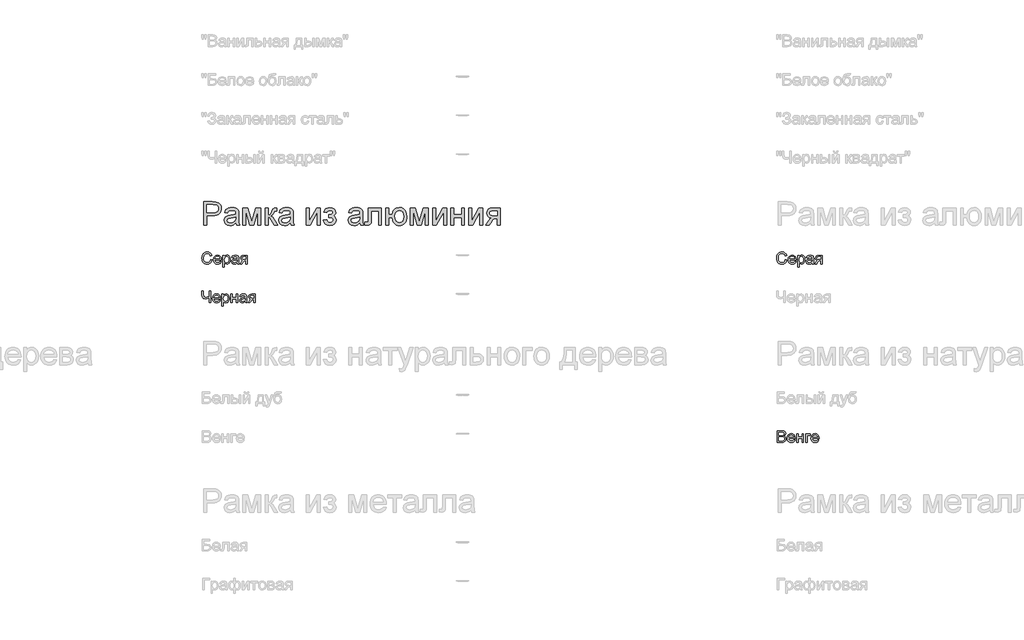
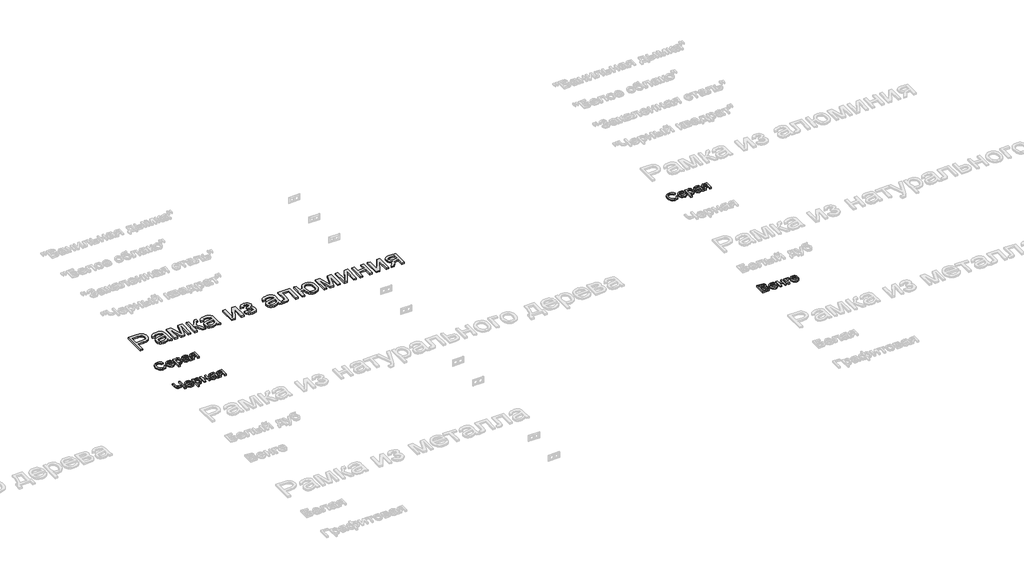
# One storey, part 115 of 168: 5 proxies.
"""IFC4 building model written with IfcOpenShell, lengths in millimetres."""

from ifc_helpers import new_model, si_unit, origin, origin_with_axes, place, context, project, spatial, polyline, outline, extrude, element, save

model = new_model("IFC4")

# Units and contexts
model_context = context("Model", 3, world=origin())
ifc_project = project(units=[si_unit("LENGTHUNIT", "METRE", prefix="MILLI")], contexts=[model_context])

# Site, building, storey
site = spatial("IfcSite", under=ifc_project)
building = spatial("IfcBuilding", under=site)
storey = spatial("IfcBuildingStorey", under=building, Name="Этаж 01", Elevation=0.0)

# Proxies
placement = place(None, origin())
element("IfcBuildingElementProxy", 1, Name="300 мм Arial 2", ObjectType="300 мм Arial 2", at=placement, inside=storey, context=model_context, shape_type="SweptSolid", body=[
    extrude(outline(polyline([(40299.0945017, -8848.4056816), (40299.0945017, -8547.0367511), (40410.7834754, -8547.0367511), (40455.8122316, -8549.9062307), (40475.8893915, -8555.2681108), (40492.4164901, -8563.9961111), (40505.7246213, -8576.4857048), (40516.1448788, -8593.1323651), (40522.8771193, -8612.7680666), (40525.1211995, -8634.224784), (40523.6059855, -8652.7246498), (40519.0603436, -8669.7437906), (40511.4842738, -8685.2822064), (40500.877776, -8699.3398971), (40486.3165468, -8710.9925593), (40466.8762826, -8719.3158895), (40442.5569835, -8724.3098875), (40413.3586494, -8725.9745536), (40336.765618, -8725.9745536), (40336.765618, -8848.4056816), (40299.0945017, -8848.4056816)]), holes=[polyline([(40336.765618, -8688.3034373), (40415.5659413, -8688.3034373), (40448.9696265, -8684.8453465), (40471.0425462, -8674.4710742), (40483.3481989, -8657.824414), (40487.4500832, -8635.5491592), (40485.0312591, -8618.6265874), (40477.7747867, -8604.352766), (40466.581977, -8593.6106117), (40452.3541408, -8587.2830414), (40414.6830245, -8584.7078674), (40336.765618, -8584.7078674), (40336.765618, -8688.3034373)])]), origin_with_axes(), (0.0, 0.0, 1.0), 20.0),
    extrude(outline(polyline([(40713.476781, -8820.1523443), (40695.4781544, -8835.584994), (40676.9460989, -8845.6833548), (40657.4575502, -8851.256767), (40636.589444, -8853.1145711), (40605.1079423, -8848.6448049), (40581.8853914, -8835.2355061), (40567.5655847, -8814.8732377), (40562.7923158, -8789.5445623), (40564.5949376, -8773.9279716), (40570.0028029, -8759.7461207), (40578.3445271, -8747.6060149), (40588.9487257, -8738.1146594), (40615.3258647, -8725.7538244), (40647.9202095, -8720.0884417), (40686.4374544, -8714.1287533), (40713.2560518, -8707.1389954), (40713.476781, -8698.7512859), (40710.883213, -8681.9390788), (40703.1025088, -8670.9394071), (40685.7016904, -8662.7724268), (40661.4582669, -8660.0501), (40639.0174652, -8661.8619189), (40623.3456922, -8667.2973753), (40612.6587202, -8677.3497509), (40605.1723216, -8693.0123268), (40567.5012053, -8688.3034373), (40574.0403078, -8667.7020455), (40583.7983777, -8651.5152378), (40597.685923, -8639.1360086), (40616.6134517, -8629.9573528), (40639.7624262, -8624.273576), (40666.3143092, -8622.3789837), (40691.7809404, -8624.0528468), (40711.9684648, -8629.074436), (40727.1895824, -8636.625214), (40737.7569927, -8645.8866432), (40744.7651447, -8657.3369703), (40749.3084874, -8671.4544419), (40751.1478973, -8704.4166687), (40751.1478973, -8751.2848348), (40753.0608837, -8816.7310418), (40760.5656764, -8848.4056816), (40722.8945601, -8848.4056816), (40713.476781, -8820.1523443)]), holes=[polyline([(40713.476781, -8744.8101117), (40652.7026754, -8756.3616064), (40620.2922716, -8762.4684475), (40605.61378, -8772.4012614), (40600.4634321, -8786.895812), (40603.2685323, -8798.0978187), (40611.683833, -8807.2764745), (40625.525393, -8813.4017097), (40644.6092715, -8815.4434548), (40664.8427813, -8813.1901776), (40682.7218462, -8806.4303459), (40697.2163968, -8796.4699409), (40707.2963635, -8784.6149436), (40711.7661297, -8772.4012614), (40713.2560518, -8755.4786896), (40713.476781, -8744.8101117)])]), origin_with_axes(), (0.0, 0.0, 1.0), 20.0),
    extrude(outline(polyline([(40802.9456823, -8627.0878733), (40867.7664898, -8627.0878733), (40917.7248647, -8804.2598421), (40971.5827888, -8627.0878733), (41033.6812696, -8627.0878733), (41033.6812696, -8848.4056816), (40996.0101533, -8848.4056816), (40996.0101533, -8670.2036431), (40941.8579236, -8848.4056816), (40892.4145835, -8848.4056816), (40840.6167986, -8661.6687808), (40840.6167986, -8848.4056816), (40802.9456823, -8848.4056816), (40802.9456823, -8627.0878733)])), origin_with_axes(), (0.0, 0.0, 1.0), 20.0),
    extrude(outline(polyline([(41090.1879441, -8627.0878733), (41127.8590604, -8627.0878733), (41127.8590604, -8721.265664), (41143.1813455, -8719.5734069), (41153.0957653, -8714.4966353), (41161.8697508, -8701.2528835), (41173.7707334, -8675.0596854), (41190.9508226, -8641.0306009), (41206.1075608, -8629.9573528), (41233.6619222, -8627.0878733), (41240.8724093, -8627.0878733), (41240.8724093, -8664.9797188), (41230.7188662, -8664.7589896), (41212.3247665, -8668.7321151), (41199.3753203, -8693.5273616), (41184.1817939, -8720.345959), (41162.8814263, -8733.4793463), (41174.8191971, -8738.7814455), (41186.6466032, -8748.1394438), (41209.9703217, -8779.0231373), (41250.2901884, -8848.4056816), (41207.4687241, -8848.4056816), (41167.9581979, -8780.4946653), (41148.0925701, -8751.7630814), (41138.8035497, -8746.5483542), (41127.8590604, -8744.8101117), (41127.8590604, -8848.4056816), (41090.1879441, -8848.4056816), (41090.1879441, -8627.0878733)])), origin_with_axes(), (0.0, 0.0, 1.0), 20.0),
    extrude(outline(polyline([(41415.1013222, -8820.1523443), (41397.1026956, -8835.584994), (41378.5706401, -8845.6833548), (41359.0820914, -8851.256767), (41338.2139852, -8853.1145711), (41306.7324835, -8848.6448049), (41283.5099326, -8835.2355061), (41269.1901259, -8814.8732377), (41264.416857, -8789.5445623), (41266.2194788, -8773.9279716), (41271.6273441, -8759.7461207), (41279.9690683, -8747.6060149), (41290.5732669, -8738.1146594), (41316.9504059, -8725.7538244), (41349.5447507, -8720.0884417), (41388.0619956, -8714.1287533), (41414.880593, -8707.1389954), (41415.1013222, -8698.7512859), (41412.5077542, -8681.9390788), (41404.72705, -8670.9394071), (41387.3262316, -8662.7724268), (41363.0828081, -8660.0501), (41340.6420064, -8661.8619189), (41324.9702334, -8667.2973753), (41314.2832614, -8677.3497509), (41306.7968628, -8693.0123268), (41269.1257465, -8688.3034373), (41275.664849, -8667.7020455), (41285.4229189, -8651.5152378), (41299.3104642, -8639.1360086), (41318.2379929, -8629.9573528), (41341.3869674, -8624.273576), (41367.9388504, -8622.3789837), (41393.4054816, -8624.0528468), (41413.593006, -8629.074436), (41428.8141236, -8636.625214), (41439.3815339, -8645.8866432), (41446.3896859, -8657.3369703), (41450.9330286, -8671.4544419), (41452.7724385, -8704.4166687), (41452.7724385, -8751.2848348), (41454.6854249, -8816.7310418), (41462.1902176, -8848.4056816), (41424.5191013, -8848.4056816), (41415.1013222, -8820.1523443)]), holes=[polyline([(41415.1013222, -8744.8101117), (41354.3272166, -8756.3616064), (41321.9168128, -8762.4684475), (41307.2383212, -8772.4012614), (41302.0879733, -8786.895812), (41304.8930735, -8798.0978187), (41313.3083742, -8807.2764745), (41327.1499342, -8813.4017097), (41346.2338127, -8815.4434548), (41366.4673225, -8813.1901776), (41384.3463874, -8806.4303459), (41398.840938, -8796.4699409), (41408.9209047, -8784.6149436), (41413.3906709, -8772.4012614), (41414.880593, -8755.4786896), (41415.1013222, -8744.8101117)])]), origin_with_axes(), (0.0, 0.0, 1.0), 20.0),
    extrude(outline(polyline([(41622.2924619, -8627.0878733), (41659.9635782, -8627.0878733), (41659.9635782, -8795.8721327), (41752.5226882, -8627.0878733), (41801.2302644, -8627.0878733), (41801.2302644, -8848.4056816), (41763.5591481, -8848.4056816), (41763.5591481, -8680.6514918), (41671.5886493, -8848.4056816), (41622.2924619, -8848.4056816), (41622.2924619, -8627.0878733)])), origin_with_axes(), (0.0, 0.0, 1.0), 20.0),
    extrude(outline(polyline([(41909.5347237, -8749.5190013), (41909.5347237, -8711.847885), (41939.259589, -8710.376357), (41954.2691744, -8702.5404705), (41959.5666751, -8695.1920276), (41961.3325087, -8686.1697217), (41958.9688668, -8675.4551586), (41951.8779414, -8667.1502225), (41941.0530137, -8661.8251307), (41927.4873651, -8660.0501), (41913.7745637, -8661.8159336), (41902.2874484, -8667.1134343), (41893.0260192, -8675.9426022), (41885.9902761, -8688.3034373), (41843.6102702, -8683.5945477), (41854.8490652, -8656.8127385), (41871.9371838, -8637.6828747), (41894.8746262, -8626.2049565), (41923.6613924, -8622.3789837), (41955.1520911, -8627.041888), (41978.9908444, -8641.0306009), (41994.0004298, -8661.4940369), (41999.003625, -8685.5811105), (41997.2239958, -8697.9419455), (41991.8851084, -8708.9784054), (41982.9869626, -8718.6904901), (41970.5295585, -8727.0781996), (41985.0700944, -8737.5444423), (41995.4351696, -8750.5490709), (42001.6431783, -8766.1288733), (42003.7125145, -8784.320638), (41998.460999, -8812.0497434), (41982.7064526, -8834.0214956), (41957.515733, -8848.3413022), (41923.955698, -8853.1145711), (41891.1314269, -8848.6999872), (41866.0142837, -8835.4562353), (41848.6042683, -8813.3833156), (41838.9013807, -8782.481228), (41881.2813865, -8777.7723385), (41887.6273509, -8793.7016289), (41898.2775347, -8805.5842173), (41911.9995331, -8812.9786454), (41927.5609415, -8815.4434548), (41942.7176797, -8813.079813), (41955.0785147, -8805.9888875), (41963.3006773, -8795.2191421), (41966.0413982, -8781.8190404), (41964.339944, -8771.2056449), (41959.2355813, -8762.0269891), (41944.7410307, -8751.4319876), (41916.8923636, -8749.2982721), (41909.5347237, -8749.5190013)])), origin_with_axes(), (0.0, 0.0, 1.0), 20.0),
    extrude(outline(polyline([(42309.7903345, -8820.1523443), (42291.7917079, -8835.584994), (42273.2596524, -8845.6833548), (42253.7711037, -8851.256767), (42232.9029975, -8853.1145711), (42201.4214958, -8848.6448049), (42178.1989448, -8835.2355061), (42163.8791382, -8814.8732377), (42159.1058693, -8789.5445623), (42160.908491, -8773.9279716), (42166.3163564, -8759.7461207), (42174.6580806, -8747.6060149), (42185.2622791, -8738.1146594), (42211.6394182, -8725.7538244), (42244.233763, -8720.0884417), (42282.7510079, -8714.1287533), (42309.5696053, -8707.1389954), (42309.7903345, -8698.7512859), (42307.1967664, -8681.9390788), (42299.4160622, -8670.9394071), (42282.0152439, -8662.7724268), (42257.7718204, -8660.0501), (42235.3310187, -8661.8619189), (42219.6592457, -8667.2973753), (42208.9722737, -8677.3497509), (42201.4858751, -8693.0123268), (42163.8147588, -8688.3034373), (42170.3538613, -8667.7020455), (42180.1119312, -8651.5152378), (42193.9994765, -8639.1360086), (42212.9270052, -8629.9573528), (42236.0759797, -8624.273576), (42262.6278627, -8622.3789837), (42288.0944938, -8624.0528468), (42308.2820183, -8629.074436), (42323.5031359, -8636.625214), (42334.0705462, -8645.8866432), (42341.0786982, -8657.3369703), (42345.6220408, -8671.4544419), (42347.4614508, -8704.4166687), (42347.4614508, -8751.2848348), (42349.3744372, -8816.7310418), (42356.8792299, -8848.4056816), (42319.2081136, -8848.4056816), (42309.7903345, -8820.1523443)]), holes=[polyline([(42309.7903345, -8744.8101117), (42249.0162289, -8756.3616064), (42216.6058251, -8762.4684475), (42201.9273335, -8772.4012614), (42196.7769856, -8786.895812), (42199.5820858, -8798.0978187), (42207.9973864, -8807.2764745), (42221.8389465, -8813.4017097), (42240.922825, -8815.4434548), (42261.1563347, -8813.1901776), (42279.0353997, -8806.4303459), (42293.5299503, -8796.4699409), (42303.609917, -8784.6149436), (42308.0796832, -8772.4012614), (42309.5696053, -8755.4786896), (42309.7903345, -8744.8101117)])]), origin_with_axes(), (0.0, 0.0, 1.0), 20.0),
    extrude(outline(polyline([(42418.0947939, -8627.0878733), (42587.6148173, -8627.0878733), (42587.6148173, -8848.1849524), (42549.9437009, -8848.1849524), (42549.9437009, -8664.7589896), (42455.7659102, -8664.7589896), (42455.7659102, -8770.3411222), (42453.2275244, -8819.0486984), (42448.4726496, -8830.0759612), (42439.2847968, -8839.6133019), (42425.3420692, -8846.2075866), (42406.32257, -8848.4056816), (42375.714788, -8846.4926952), (42375.714788, -8810.7345653), (42392.5637834, -8810.7345653), (42409.5967198, -8808.4169087), (42416.4025367, -8801.0592688), (42418.0947939, -8768.2074066), (42418.0947939, -8627.0878733)])), origin_with_axes(), (0.0, 0.0, 1.0), 20.0),
    extrude(outline(polyline([(42644.1214917, -8627.0878733), (42681.792608, -8627.0878733), (42681.792608, -8711.847885), (42724.1726139, -8711.847885), (42733.9490779, -8673.4410047), (42742.4724439, -8658.1003255), (42753.4192325, -8645.3348202), (42766.4813426, -8635.2916418), (42781.350673, -8628.1179429), (42816.5109947, -8622.3789837), (42846.0611159, -8625.754301), (42868.6398734, -8635.880253), (42886.0590858, -8651.929105), (42900.1305722, -8673.0731227), (42909.4287896, -8700.8850015), (42912.5281954, -8736.937437), (42910.9256095, -8763.7928227), (42906.1178516, -8787.1901176), (42898.1049219, -8807.1293217), (42886.8868203, -8823.6104351), (42872.9233994, -8836.5184946), (42856.6745115, -8845.7385371), (42838.1401567, -8851.2705626), (42817.320335, -8853.1145711), (42797.9168591, -8851.3855257), (42780.5413326, -8846.1983896), (42765.1937556, -8837.5531627), (42751.8741281, -8825.4498451), (42740.9135439, -8810.3298951), (42732.6430968, -8792.6347711), (42724.1726139, -8749.5190013), (42681.792608, -8749.5190013), (42681.792608, -8848.4056816), (42644.1214917, -8848.4056816), (42644.1214917, -8627.0878733)]), holes=[polyline([(42818.9390158, -8660.0501), (42794.9255186, -8664.9245365), (42776.8901038, -8679.5478458), (42765.6053236, -8702.9635348), (42761.8437302, -8734.2151103), (42765.6329147, -8770.6262307), (42777.0004684, -8795.8353445), (42794.7139864, -8810.5414272), (42817.5410642, -8815.4434548), (42840.4325214, -8810.9093092), (42858.7806359, -8797.3068724), (42870.8379683, -8773.6060749), (42874.8570791, -8738.776847), (42871.3805942, -8704.3338952), (42860.9511397, -8679.7317868), (42843.495139, -8664.9705217), (42818.9390158, -8660.0501)])]), origin_with_axes(), (0.0, 0.0, 1.0), 20.0),
    extrude(outline(polyline([(42959.6170908, -8627.0878733), (43024.4378983, -8627.0878733), (43074.3962733, -8804.2598421), (43128.2541974, -8627.0878733), (43190.3526782, -8627.0878733), (43190.3526782, -8848.4056816), (43152.6815618, -8848.4056816), (43152.6815618, -8670.2036431), (43098.5293322, -8848.4056816), (43049.085992, -8848.4056816), (42997.2882071, -8661.6687808), (42997.2882071, -8848.4056816), (42959.6170908, -8848.4056816), (42959.6170908, -8627.0878733)])), origin_with_axes(), (0.0, 0.0, 1.0), 20.0),
    extrude(outline(polyline([(43246.8593526, -8627.0878733), (43284.5304689, -8627.0878733), (43284.5304689, -8795.8721327), (43377.0895789, -8627.0878733), (43425.7971551, -8627.0878733), (43425.7971551, -8848.4056816), (43388.1260388, -8848.4056816), (43388.1260388, -8680.6514918), (43296.15554, -8848.4056816), (43246.8593526, -8848.4056816), (43246.8593526, -8627.0878733)])), origin_with_axes(), (0.0, 0.0, 1.0), 20.0),
    extrude(outline(polyline([(43482.3038295, -8627.0878733), (43519.9749458, -8627.0878733), (43519.9749458, -8711.847885), (43618.8616261, -8711.847885), (43618.8616261, -8627.0878733), (43656.5327424, -8627.0878733), (43656.5327424, -8848.4056816), (43618.8616261, -8848.4056816), (43618.8616261, -8749.5190013), (43519.9749458, -8749.5190013), (43519.9749458, -8848.4056816), (43482.3038295, -8848.4056816), (43482.3038295, -8627.0878733)])), origin_with_axes(), (0.0, 0.0, 1.0), 20.0),
    extrude(outline(polyline([(43713.0394169, -8627.0878733), (43750.7105332, -8627.0878733), (43750.7105332, -8795.8721327), (43843.2696432, -8627.0878733), (43891.9772194, -8627.0878733), (43891.9772194, -8848.4056816), (43854.306103, -8848.4056816), (43854.306103, -8680.6514918), (43762.3356043, -8848.4056816), (43713.0394169, -8848.4056816), (43713.0394169, -8627.0878733)])), origin_with_axes(), (0.0, 0.0, 1.0), 20.0),
    extrude(outline(polyline([(44118.0039172, -8627.0878733), (44118.0039172, -8848.4056816), (44080.3328009, -8848.4056816), (44080.3328009, -8763.6456699), (44059.8049856, -8763.6456699), (44031.8459539, -8768.4281358), (44020.6807354, -8778.8575904), (44005.5791795, -8800.5810222), (43975.5600087, -8848.4056816), (43932.0027804, -8848.4056816), (43969.8210495, -8787.9258816), (43986.5228921, -8766.2208438), (44001.9003595, -8756.5823356), (43976.1486198, -8748.6912668), (43958.0488257, -8733.7000755), (43947.3434596, -8713.7608713), (43943.7750043, -8691.025764), (43948.6494407, -8665.2372362), (43963.27275, -8644.8197854), (43987.1298974, -8631.5208513), (44019.7058481, -8627.0878733), (44118.0039172, -8627.0878733)]), holes=[polyline([(44080.3328009, -8664.7589896), (44030.6687315, -8664.7589896), (44005.0181594, -8666.9386904), (43990.4592295, -8673.4777929), (43983.6993978, -8682.9415572), (43981.4461206, -8693.8952436), (43984.7662556, -8708.2518385), (43994.7266606, -8718.2122435), (44013.1299574, -8724.033976), (44041.7787678, -8725.9745536), (44080.3328009, -8725.9745536), (44080.3328009, -8664.7589896)])]), origin_with_axes(), (0.0, 0.0, 1.0), 20.0),
])
element("IfcBuildingElementProxy", 2, Name="150", ObjectType="150", at=placement, inside=storey, context=model_context, shape_type="SweptSolid", body=[
    extrude(outline(polyline([(40388.5634029, -9294.8420631), (40407.398961, -9299.6981054), (40398.7077489, -9321.6468649), (40385.0685239, -9337.6819214), (40367.1526708, -9347.4905751), (40345.631574, -9350.7601263), (40323.7839821, -9348.2861199), (40306.4337475, -9340.8641007), (40293.1348133, -9328.751586), (40283.4411228, -9312.2060932), (40277.5228212, -9292.7543327), (40275.550054, -9271.9230148), (40277.7803386, -9249.9512626), (40284.4711923, -9230.9777487), (40295.2731274, -9215.6048798), (40309.8366559, -9204.4350628), (40327.1087156, -9197.6338444), (40346.0362442, -9195.3667716), (40366.6882197, -9198.3006305), (40383.7625428, -9207.1022072), (40396.7257847, -9221.2288758), (40405.0445163, -9240.1380104), (40386.2089581, -9244.6261707), (40379.6790527, -9230.8903767), (40370.7579143, -9221.4679991), (40359.3351784, -9216.0187471), (40345.3004803, -9214.2023297), (40329.1228695, -9216.2164837), (40315.8331324, -9222.2589454), (40305.7485672, -9231.6951186), (40299.1864722, -9243.8904067), (40294.3856121, -9271.8862266), (40295.8065563, -9289.2870449), (40300.0693889, -9304.3334185), (40307.3350583, -9316.4505318), (40317.7645129, -9325.063569), (40330.2679022, -9330.2093184), (40343.7553759, -9331.9245682), (40359.4777326, -9329.5885175), (40372.5789302, -9322.5803655), (40382.4703573, -9310.9736886), (40388.5634029, -9294.8420631)])), origin_with_axes(), (0.0, 0.0, 1.0), 20.0),
    extrude(outline(polyline([(40508.4193569, -9315.4434548), (40526.8870331, -9317.7978996), (40520.2329675, -9331.713036), (40509.6149734, -9342.1148995), (40495.2721741, -9348.5988196), (40477.4436929, -9350.7601263), (40455.3431821, -9347.0307226), (40438.3378368, -9335.8425114), (40427.494515, -9317.9220597), (40423.8800744, -9293.9959345), (40427.5313032, -9269.2650674), (40438.4849896, -9250.7698), (40455.2604086, -9239.2366995), (40476.3768351, -9235.3923327), (40496.8356726, -9239.2275025), (40513.1834288, -9250.7330118), (40523.9025904, -9269.191491), (40527.4756443, -9293.8855699), (40527.3652797, -9298.9623414), (40442.7156326, -9298.9623414), (40445.9759868, -9313.0614189), (40453.5497573, -9323.4264941), (40464.4804511, -9329.8000497), (40477.8115749, -9331.9245682), (40496.2792511, -9327.9882308), (40508.4193569, -9315.4434548)]), holes=[polyline([(40442.7156326, -9280.1267833), (40508.6400861, -9280.1267833), (40506.0925033, -9270.1755753), (40501.0985052, -9263.0570587), (40490.1172277, -9256.4351828), (40476.3032587, -9254.2278908), (40463.6067314, -9255.9891259), (40453.1082989, -9261.272831), (40445.8104399, -9269.5087892), (40442.7156326, -9280.1267833)])]), origin_with_axes(), (0.0, 0.0, 1.0), 20.0),
    extrude(outline(polyline([(40546.3112024, -9390.7856874), (40546.3112024, -9237.7467774), (40565.1467606, -9237.7467774), (40565.1467606, -9256.2144536), (40578.1697832, -9240.5978629), (40595.7545426, -9235.3923327), (40608.4924567, -9237.2133485), (40619.6300841, -9242.6763962), (40628.6983752, -9251.4503817), (40635.2282807, -9263.2042115), (40640.4889932, -9292.2301009), (40639.0036696, -9308.3387338), (40634.547699, -9322.7459124), (40627.2636355, -9334.7204713), (40617.2940334, -9343.5312451), (40605.6827579, -9348.952906), (40593.4736742, -9350.7601263), (40577.0845313, -9345.9224781), (40565.1467606, -9333.6904018), (40565.1467606, -9390.7856874), (40546.3112024, -9390.7856874)]), holes=[polyline([(40565.1467606, -9293.9591463), (40567.1839071, -9310.8449299), (40573.2953468, -9322.6539419), (40582.3130542, -9329.6069116), (40593.069004, -9331.9245682), (40603.9996978, -9329.5241382), (40613.2473314, -9322.3228481), (40619.5519091, -9310.0815747), (40621.653435, -9292.5611947), (40619.6024929, -9275.7673816), (40613.4496665, -9263.7928227), (40604.4457547, -9256.6191238), (40593.8415562, -9254.2278908), (40583.195971, -9256.7708751), (40573.8471698, -9264.399828), (40567.3218629, -9276.8756261), (40565.1467606, -9293.9591463)])]), origin_with_axes(), (0.0, 0.0, 1.0), 20.0),
    extrude(outline(polyline([(40732.3123392, -9334.279013), (40714.0469981, -9347.0445182), (40693.8686707, -9350.7601263), (40678.1279198, -9348.5252432), (40666.5166443, -9341.8205939), (40659.356741, -9331.6394596), (40656.9701066, -9318.975122), (40660.5753501, -9304.0759012), (40670.0483115, -9293.2601705), (40683.236881, -9287.079753), (40699.5340534, -9284.2470616), (40732.2019746, -9277.7723385), (40732.3123392, -9273.5784838), (40731.0155551, -9265.1723802), (40727.125203, -9259.6725443), (40718.4247939, -9255.5890542), (40706.3030821, -9254.2278908), (40687.2467948, -9257.8515285), (40678.1601095, -9270.7090042), (40659.3245513, -9268.3545594), (40667.4731375, -9249.9604597), (40683.8806745, -9239.1815172), (40708.7311033, -9235.3923327), (40731.5581811, -9238.7400588), (40744.452445, -9247.1461624), (40750.2281923, -9259.9300617), (40751.1478973, -9276.4111751), (40751.1478973, -9299.8452582), (40752.1043905, -9332.5683617), (40755.8567869, -9348.4056816), (40737.0212287, -9348.4056816), (40732.3123392, -9334.279013)]), holes=[polyline([(40732.3123392, -9296.6078966), (40701.9252864, -9302.383644), (40685.7200845, -9305.4370645), (40678.3808387, -9310.4034715), (40675.8056647, -9317.6507468), (40681.4158651, -9327.841078), (40697.8785844, -9331.9245682), (40716.9348718, -9327.4180137), (40729.2221304, -9316.5103126), (40732.2019746, -9301.9421856), (40732.3123392, -9296.6078966)])]), origin_with_axes(), (0.0, 0.0, 1.0), 20.0),
    extrude(outline(polyline([(40861.8068015, -9237.7467774), (40861.8068015, -9348.4056816), (40842.9712433, -9348.4056816), (40842.9712433, -9306.0256757), (40832.7073357, -9306.0256757), (40818.7278198, -9308.4169087), (40805.5944326, -9324.4933519), (40790.5848472, -9348.4056816), (40768.8062331, -9348.4056816), (40787.7153677, -9318.1657816), (40796.0662889, -9307.3132627), (40803.7550226, -9302.4940086), (40790.8791528, -9298.5484742), (40781.8292557, -9291.0528785), (40776.4765727, -9281.0832765), (40774.692345, -9269.7157228), (40777.1295632, -9256.8214589), (40784.4412179, -9246.6127335), (40796.3697916, -9239.9632664), (40812.6577669, -9237.7467774), (40861.8068015, -9237.7467774)]), holes=[polyline([(40842.9712433, -9256.5823356), (40818.1392087, -9256.5823356), (40805.3139226, -9257.672186), (40798.0344576, -9260.9417372), (40793.5279032, -9271.1504626), (40795.1879707, -9278.32876), (40800.1681732, -9283.3089625), (40823.6942268, -9287.1901176), (40842.9712433, -9287.1901176), (40842.9712433, -9256.5823356)])]), origin_with_axes(), (0.0, 0.0, 1.0), 20.0),
])
element("IfcBuildingElementProxy", 3, Name="150", ObjectType="150", at=placement, inside=storey, context=model_context, shape_type="SweptSolid", body=[
    extrude(outline(polyline([(40388.5634029, -9848.4056816), (40369.7278447, -9848.4056816), (40369.7278447, -9788.0730344), (40344.7486573, -9796.2400147), (40323.0804077, -9798.9623414), (40308.3973176, -9797.0999388), (40295.5444404, -9791.512731), (40285.5840354, -9783.0606422), (40279.5783618, -9772.6035965), (40275.550054, -9742.6028198), (40275.550054, -9697.7212163), (40294.3856121, -9697.7212163), (40294.3856121, -9740.064434), (40296.6480864, -9760.4313009), (40303.4355092, -9772.3828673), (40313.3959142, -9778.1908043), (40325.1773351, -9780.1267833), (40346.909964, -9777.7907326), (40369.7278447, -9770.7825806), (40369.7278447, -9697.7212163), (40388.5634029, -9697.7212163), (40388.5634029, -9848.4056816)])), origin_with_axes(), (0.0, 0.0, 1.0), 20.0),
    extrude(outline(polyline([(40496.6471331, -9815.4434548), (40515.1148092, -9817.7978996), (40508.4607436, -9831.713036), (40497.8427496, -9842.1148995), (40483.4999503, -9848.5988196), (40465.6714691, -9850.7601263), (40443.5709582, -9847.0307226), (40426.565613, -9835.8425114), (40415.7222912, -9817.9220597), (40412.1078506, -9793.9959345), (40415.7590794, -9769.2650674), (40426.7127658, -9750.7698), (40443.4881848, -9739.2366995), (40464.6046113, -9735.3923327), (40485.0634487, -9739.2275025), (40501.4112049, -9750.7330118), (40512.1303665, -9769.191491), (40515.7034204, -9793.8855699), (40515.5930558, -9798.9623414), (40430.9434087, -9798.9623414), (40434.2037629, -9813.0614189), (40441.7775335, -9823.4264941), (40452.7082273, -9829.8000497), (40466.0393511, -9831.9245682), (40484.5070272, -9827.9882308), (40496.6471331, -9815.4434548)]), holes=[polyline([(40430.9434087, -9780.1267833), (40496.8678623, -9780.1267833), (40494.3202794, -9770.1755753), (40489.3262814, -9763.0570587), (40478.3450038, -9756.4351828), (40464.5310349, -9754.2278908), (40451.8345075, -9755.9891259), (40441.3360751, -9761.272831), (40434.038216, -9769.5087892), (40430.9434087, -9780.1267833)])]), origin_with_axes(), (0.0, 0.0, 1.0), 20.0),
    extrude(outline(polyline([(40534.5389786, -9890.7856874), (40534.5389786, -9737.7467774), (40553.3745367, -9737.7467774), (40553.3745367, -9756.2144536), (40566.3975594, -9740.5978629), (40583.9823187, -9735.3923327), (40596.7202328, -9737.2133485), (40607.8578602, -9742.6763962), (40616.9261514, -9751.4503817), (40623.4560568, -9763.2042115), (40628.7167693, -9792.2301009), (40627.2314458, -9808.3387338), (40622.7754751, -9822.7459124), (40615.4914116, -9834.7204713), (40605.5218095, -9843.5312451), (40593.9105341, -9848.952906), (40581.7014504, -9850.7601263), (40565.3123075, -9845.9224781), (40553.3745367, -9833.6904018), (40553.3745367, -9890.7856874), (40534.5389786, -9890.7856874)]), holes=[polyline([(40553.3745367, -9793.9591463), (40555.4116833, -9810.8449299), (40561.5231229, -9822.6539419), (40570.5408303, -9829.6069116), (40581.2967802, -9831.9245682), (40592.2274739, -9829.5241382), (40601.4751076, -9822.3228481), (40607.7796853, -9810.0815747), (40609.8812112, -9792.5611947), (40607.8302691, -9775.7673816), (40601.6774427, -9763.7928227), (40592.6735309, -9756.6191238), (40582.0693323, -9754.2278908), (40571.4237471, -9756.7708751), (40562.0749459, -9764.399828), (40555.549639, -9776.8756261), (40553.3745367, -9793.9591463)])]), origin_with_axes(), (0.0, 0.0, 1.0), 20.0),
    extrude(outline(polyline([(40649.9067723, -9737.7467774), (40668.7423304, -9737.7467774), (40668.7423304, -9780.1267833), (40718.1856706, -9780.1267833), (40718.1856706, -9737.7467774), (40737.0212287, -9737.7467774), (40737.0212287, -9848.4056816), (40718.1856706, -9848.4056816), (40718.1856706, -9798.9623414), (40668.7423304, -9798.9623414), (40668.7423304, -9848.4056816), (40649.9067723, -9848.4056816), (40649.9067723, -9737.7467774)])), origin_with_axes(), (0.0, 0.0, 1.0), 20.0),
    extrude(outline(polyline([(40835.907909, -9834.279013), (40817.642568, -9847.0445182), (40797.4642405, -9850.7601263), (40781.7234897, -9848.5252432), (40770.1122142, -9841.8205939), (40762.9523109, -9831.6394596), (40760.5656764, -9818.975122), (40764.17092, -9804.0759012), (40773.6438813, -9793.2601705), (40786.8324509, -9787.079753), (40803.1296232, -9784.2470616), (40835.7975444, -9777.7723385), (40835.907909, -9773.5784838), (40834.611125, -9765.1723802), (40830.7207729, -9759.6725443), (40822.0203637, -9755.5890542), (40809.898652, -9754.2278908), (40790.8423646, -9757.8515285), (40781.7556793, -9770.7090042), (40762.9201212, -9768.3545594), (40771.0687074, -9749.9604597), (40787.4762444, -9739.1815172), (40812.3266731, -9735.3923327), (40835.1537509, -9738.7400588), (40848.0480149, -9747.1461624), (40853.8237622, -9759.9300617), (40854.7434672, -9776.4111751), (40854.7434672, -9799.8452582), (40855.6999604, -9832.5683617), (40859.4523567, -9848.4056816), (40840.6167986, -9848.4056816), (40835.907909, -9834.279013)]), holes=[polyline([(40835.907909, -9796.6078966), (40805.5208562, -9802.383644), (40789.3156543, -9805.4370645), (40781.9764085, -9810.4034715), (40779.4012346, -9817.6507468), (40785.011435, -9827.841078), (40801.4741543, -9831.9245682), (40820.5304416, -9827.4180137), (40832.8177003, -9816.5103126), (40835.7975444, -9801.9421856), (40835.907909, -9796.6078966)])]), origin_with_axes(), (0.0, 0.0, 1.0), 20.0),
    extrude(outline(polyline([(40965.4023713, -9737.7467774), (40965.4023713, -9848.4056816), (40946.5668132, -9848.4056816), (40946.5668132, -9806.0256757), (40936.3029055, -9806.0256757), (40922.3233897, -9808.4169087), (40909.1900025, -9824.4933519), (40894.1804171, -9848.4056816), (40872.4018029, -9848.4056816), (40891.3109375, -9818.1657816), (40899.6618588, -9807.3132627), (40907.3505925, -9802.4940086), (40894.4747227, -9798.5484742), (40885.4248256, -9791.0528785), (40880.0721425, -9781.0832765), (40878.2879149, -9769.7157228), (40880.7251331, -9756.8214589), (40888.0367877, -9746.6127335), (40899.9653614, -9739.9632664), (40916.2533368, -9737.7467774), (40965.4023713, -9737.7467774)]), holes=[polyline([(40946.5668132, -9756.5823356), (40921.7347785, -9756.5823356), (40908.9094924, -9757.672186), (40901.6300275, -9760.9417372), (40897.123473, -9771.1504626), (40898.7835405, -9778.32876), (40903.763743, -9783.3089625), (40927.2897966, -9787.1901176), (40946.5668132, -9787.1901176), (40946.5668132, -9756.5823356)])]), origin_with_axes(), (0.0, 0.0, 1.0), 20.0),
])
element("IfcBuildingElementProxy", 4, Name="150", ObjectType="150", at=placement, inside=storey, context=model_context, shape_type="SweptSolid", body=[
    extrude(outline(polyline([(47788.5634029, -9294.8420631), (47807.398961, -9299.6981054), (47798.7077489, -9321.6468649), (47785.0685239, -9337.6819214), (47767.1526708, -9347.4905751), (47745.631574, -9350.7601263), (47723.7839821, -9348.2861199), (47706.4337475, -9340.8641007), (47693.1348133, -9328.751586), (47683.4411228, -9312.2060932), (47677.5228212, -9292.7543327), (47675.550054, -9271.9230148), (47677.7803386, -9249.9512626), (47684.4711923, -9230.9777487), (47695.2731274, -9215.6048798), (47709.8366559, -9204.4350628), (47727.1087156, -9197.6338444), (47746.0362442, -9195.3667716), (47766.6882197, -9198.3006305), (47783.7625428, -9207.1022072), (47796.7257847, -9221.2288758), (47805.0445163, -9240.1380104), (47786.2089581, -9244.6261707), (47779.6790527, -9230.8903767), (47770.7579143, -9221.4679991), (47759.3351784, -9216.0187471), (47745.3004803, -9214.2023297), (47729.1228695, -9216.2164837), (47715.8331324, -9222.2589454), (47705.7485672, -9231.6951186), (47699.1864722, -9243.8904067), (47694.3856121, -9271.8862266), (47695.8065563, -9289.2870449), (47700.0693889, -9304.3334185), (47707.3350583, -9316.4505318), (47717.7645129, -9325.063569), (47730.2679022, -9330.2093184), (47743.7553759, -9331.9245682), (47759.4777326, -9329.5885175), (47772.5789302, -9322.5803655), (47782.4703573, -9310.9736886), (47788.5634029, -9294.8420631)])), origin_with_axes(), (0.0, 0.0, 1.0), 20.0),
    extrude(outline(polyline([(47908.4193569, -9315.4434548), (47926.8870331, -9317.7978996), (47920.2329675, -9331.713036), (47909.6149734, -9342.1148995), (47895.2721741, -9348.5988196), (47877.4436929, -9350.7601263), (47855.3431821, -9347.0307226), (47838.3378368, -9335.8425114), (47827.494515, -9317.9220597), (47823.8800744, -9293.9959345), (47827.5313032, -9269.2650674), (47838.4849896, -9250.7698), (47855.2604086, -9239.2366995), (47876.3768351, -9235.3923327), (47896.8356726, -9239.2275025), (47913.1834288, -9250.7330118), (47923.9025904, -9269.191491), (47927.4756443, -9293.8855699), (47927.3652797, -9298.9623414), (47842.7156326, -9298.9623414), (47845.9759868, -9313.0614189), (47853.5497573, -9323.4264941), (47864.4804511, -9329.8000497), (47877.8115749, -9331.9245682), (47896.2792511, -9327.9882308), (47908.4193569, -9315.4434548)]), holes=[polyline([(47842.7156326, -9280.1267833), (47908.6400861, -9280.1267833), (47906.0925033, -9270.1755753), (47901.0985052, -9263.0570587), (47890.1172277, -9256.4351828), (47876.3032587, -9254.2278908), (47863.6067314, -9255.9891259), (47853.1082989, -9261.272831), (47845.8104399, -9269.5087892), (47842.7156326, -9280.1267833)])]), origin_with_axes(), (0.0, 0.0, 1.0), 20.0),
    extrude(outline(polyline([(47946.3112024, -9390.7856874), (47946.3112024, -9237.7467774), (47965.1467606, -9237.7467774), (47965.1467606, -9256.2144536), (47978.1697832, -9240.5978629), (47995.7545426, -9235.3923327), (48008.4924567, -9237.2133485), (48019.6300841, -9242.6763962), (48028.6983752, -9251.4503817), (48035.2282807, -9263.2042115), (48040.4889932, -9292.2301009), (48039.0036696, -9308.3387338), (48034.547699, -9322.7459124), (48027.2636355, -9334.7204713), (48017.2940334, -9343.5312451), (48005.6827579, -9348.952906), (47993.4736742, -9350.7601263), (47977.0845313, -9345.9224781), (47965.1467606, -9333.6904018), (47965.1467606, -9390.7856874), (47946.3112024, -9390.7856874)]), holes=[polyline([(47965.1467606, -9293.9591463), (47967.1839071, -9310.8449299), (47973.2953468, -9322.6539419), (47982.3130542, -9329.6069116), (47993.069004, -9331.9245682), (48003.9996978, -9329.5241382), (48013.2473314, -9322.3228481), (48019.5519091, -9310.0815747), (48021.653435, -9292.5611947), (48019.6024929, -9275.7673816), (48013.4496665, -9263.7928227), (48004.4457547, -9256.6191238), (47993.8415562, -9254.2278908), (47983.195971, -9256.7708751), (47973.8471698, -9264.399828), (47967.3218629, -9276.8756261), (47965.1467606, -9293.9591463)])]), origin_with_axes(), (0.0, 0.0, 1.0), 20.0),
    extrude(outline(polyline([(48132.3123392, -9334.279013), (48114.0469981, -9347.0445182), (48093.8686707, -9350.7601263), (48078.1279198, -9348.5252432), (48066.5166443, -9341.8205939), (48059.356741, -9331.6394596), (48056.9701066, -9318.975122), (48060.5753501, -9304.0759012), (48070.0483115, -9293.2601705), (48083.236881, -9287.079753), (48099.5340534, -9284.2470616), (48132.2019746, -9277.7723385), (48132.3123392, -9273.5784838), (48131.0155551, -9265.1723802), (48127.125203, -9259.6725443), (48118.4247939, -9255.5890542), (48106.3030821, -9254.2278908), (48087.2467948, -9257.8515285), (48078.1601095, -9270.7090042), (48059.3245513, -9268.3545594), (48067.4731375, -9249.9604597), (48083.8806745, -9239.1815172), (48108.7311033, -9235.3923327), (48131.5581811, -9238.7400588), (48144.452445, -9247.1461624), (48150.2281923, -9259.9300617), (48151.1478973, -9276.4111751), (48151.1478973, -9299.8452582), (48152.1043905, -9332.5683617), (48155.8567869, -9348.4056816), (48137.0212287, -9348.4056816), (48132.3123392, -9334.279013)]), holes=[polyline([(48132.3123392, -9296.6078966), (48101.9252864, -9302.383644), (48085.7200845, -9305.4370645), (48078.3808387, -9310.4034715), (48075.8056647, -9317.6507468), (48081.4158651, -9327.841078), (48097.8785844, -9331.9245682), (48116.9348718, -9327.4180137), (48129.2221304, -9316.5103126), (48132.2019746, -9301.9421856), (48132.3123392, -9296.6078966)])]), origin_with_axes(), (0.0, 0.0, 1.0), 20.0),
    extrude(outline(polyline([(48261.8068015, -9237.7467774), (48261.8068015, -9348.4056816), (48242.9712433, -9348.4056816), (48242.9712433, -9306.0256757), (48232.7073357, -9306.0256757), (48218.7278198, -9308.4169087), (48205.5944326, -9324.4933519), (48190.5848472, -9348.4056816), (48168.8062331, -9348.4056816), (48187.7153677, -9318.1657816), (48196.0662889, -9307.3132627), (48203.7550226, -9302.4940086), (48190.8791528, -9298.5484742), (48181.8292557, -9291.0528785), (48176.4765727, -9281.0832765), (48174.692345, -9269.7157228), (48177.1295632, -9256.8214589), (48184.4412179, -9246.6127335), (48196.3697916, -9239.9632664), (48212.6577669, -9237.7467774), (48261.8068015, -9237.7467774)]), holes=[polyline([(48242.9712433, -9256.5823356), (48218.1392087, -9256.5823356), (48205.3139226, -9257.672186), (48198.0344576, -9260.9417372), (48193.5279032, -9271.1504626), (48195.1879707, -9278.32876), (48200.1681732, -9283.3089625), (48223.6942268, -9287.1901176), (48242.9712433, -9287.1901176), (48242.9712433, -9256.5823356)])]), origin_with_axes(), (0.0, 0.0, 1.0), 20.0),
])
element("IfcBuildingElementProxy", 5, Name="150", ObjectType="150", at=placement, inside=storey, context=model_context, shape_type="SweptSolid", body=[
    extrude(outline(polyline([(47682.6133883, -11648.4056816), (47682.6133883, -11497.7212163), (47740.1133441, -11497.7212163), (47768.2747109, -11502.1541944), (47777.7384752, -11507.7781904), (47784.902977, -11515.7842223), (47790.9178477, -11535.0612389), (47785.8594702, -11552.6643923), (47770.5739733, -11566.0001146), (47781.2471497, -11571.5735269), (47789.13362, -11580.0532069), (47794.0034579, -11590.8781346), (47795.6267372, -11603.48729), (47791.1937592, -11623.7391938), (47780.2124816, -11638.160168), (47763.8233387, -11645.8121135), (47739.6718857, -11648.4056816), (47682.6133883, -11648.4056816)]), holes=[polyline([(47701.4489464, -11558.9367803), (47735.845913, -11558.9367803), (47755.9322699, -11557.3180996), (47768.0171935, -11550.3467358), (47772.0822895, -11538.0778712), (47768.293105, -11525.7906126), (47757.4405861, -11518.5249432), (47733.2339508, -11516.5567745), (47701.4489464, -11516.5567745), (47701.4489464, -11558.9367803)]), polyline([(47701.4489464, -11629.5701234), (47740.0765559, -11629.5701234), (47754.0560717, -11628.8343594), (47765.8834779, -11624.7324752), (47773.7193644, -11616.3631598), (47776.791179, -11603.671231), (47773.1859355, -11589.0295275), (47761.5056821, -11580.2923302), (47738.2371459, -11577.7723385), (47701.4489464, -11577.7723385), (47701.4489464, -11629.5701234)])]), origin_with_axes(), (0.0, 0.0, 1.0), 20.0),
    extrude(outline(polyline([(47896.6471331, -11615.4434548), (47915.1148092, -11617.7978996), (47908.4607436, -11631.713036), (47897.8427496, -11642.1148995), (47883.4999503, -11648.5988196), (47865.6714691, -11650.7601263), (47843.5709582, -11647.0307226), (47826.565613, -11635.8425114), (47815.7222912, -11617.9220597), (47812.1078506, -11593.9959345), (47815.7590794, -11569.2650674), (47826.7127658, -11550.7698), (47843.4881848, -11539.2366995), (47864.6046113, -11535.3923327), (47885.0634487, -11539.2275025), (47901.4112049, -11550.7330118), (47912.1303665, -11569.191491), (47915.7034204, -11593.8855699), (47915.5930558, -11598.9623414), (47830.9434087, -11598.9623414), (47834.2037629, -11613.0614189), (47841.7775335, -11623.4264941), (47852.7082273, -11629.8000497), (47866.0393511, -11631.9245682), (47884.5070272, -11627.9882308), (47896.6471331, -11615.4434548)]), holes=[polyline([(47830.9434087, -11580.1267833), (47896.8678623, -11580.1267833), (47894.3202794, -11570.1755753), (47889.3262814, -11563.0570587), (47878.3450038, -11556.4351828), (47864.5310349, -11554.2278908), (47851.8345075, -11555.9891259), (47841.3360751, -11561.272831), (47834.038216, -11569.5087892), (47830.9434087, -11580.1267833)])]), origin_with_axes(), (0.0, 0.0, 1.0), 20.0),
    extrude(outline(polyline([(47934.5389786, -11537.7467774), (47953.3745367, -11537.7467774), (47953.3745367, -11580.1267833), (48002.8178769, -11580.1267833), (48002.8178769, -11537.7467774), (48021.653435, -11537.7467774), (48021.653435, -11648.4056816), (48002.8178769, -11648.4056816), (48002.8178769, -11598.9623414), (47953.3745367, -11598.9623414), (47953.3745367, -11648.4056816), (47934.5389786, -11648.4056816), (47934.5389786, -11537.7467774)])), origin_with_axes(), (0.0, 0.0, 1.0), 20.0),
    extrude(outline(polyline([(48049.9067723, -11537.7467774), (48111.1223363, -11537.7467774), (48111.1223363, -11556.5823356), (48068.7423304, -11556.5823356), (48068.7423304, -11648.4056816), (48049.9067723, -11648.4056816), (48049.9067723, -11537.7467774)])), origin_with_axes(), (0.0, 0.0, 1.0), 20.0),
    extrude(outline(polyline([(48202.7249531, -11615.4434548), (48221.1926292, -11617.7978996), (48214.5385636, -11631.713036), (48203.9205695, -11642.1148995), (48189.5777703, -11648.5988196), (48171.7492891, -11650.7601263), (48149.6487782, -11647.0307226), (48132.643433, -11635.8425114), (48121.8001112, -11617.9220597), (48118.1856706, -11593.9959345), (48121.8368994, -11569.2650674), (48132.7905858, -11550.7698), (48149.5660048, -11539.2366995), (48170.6824313, -11535.3923327), (48191.1412687, -11539.2275025), (48207.4890249, -11550.7330118), (48218.2081865, -11569.191491), (48221.7812404, -11593.8855699), (48221.6708758, -11598.9623414), (48137.0212287, -11598.9623414), (48140.2815829, -11613.0614189), (48147.8553535, -11623.4264941), (48158.7860473, -11629.8000497), (48172.1171711, -11631.9245682), (48190.5848472, -11627.9882308), (48202.7249531, -11615.4434548)]), holes=[polyline([(48137.0212287, -11580.1267833), (48202.9456823, -11580.1267833), (48200.3980994, -11570.1755753), (48195.4041014, -11563.0570587), (48184.4228238, -11556.4351828), (48170.6088549, -11554.2278908), (48157.9123275, -11555.9891259), (48147.4138951, -11561.272831), (48140.116036, -11569.5087892), (48137.0212287, -11580.1267833)])]), origin_with_axes(), (0.0, 0.0, 1.0), 20.0),
])

save(model, "model.ifc")
